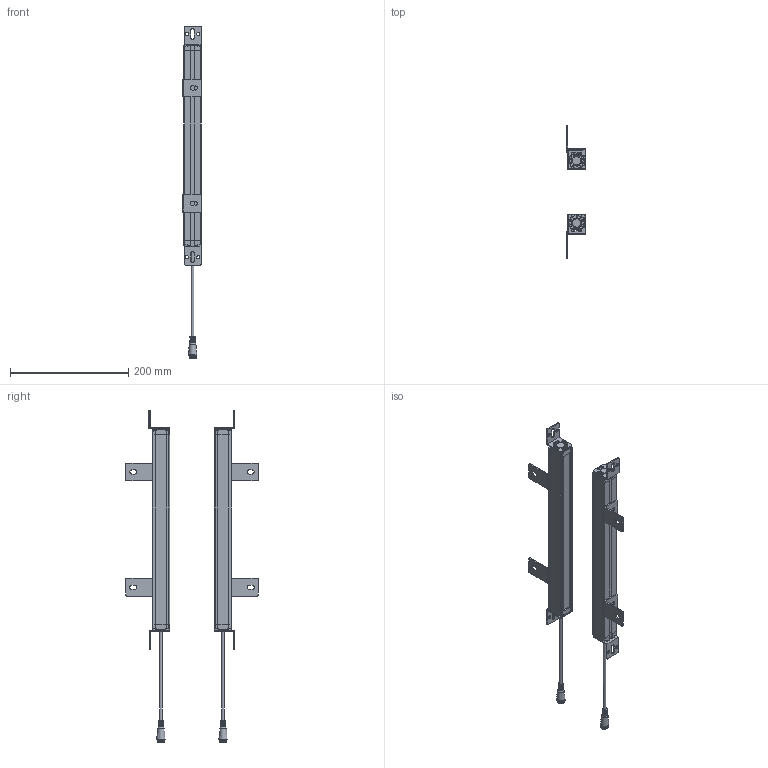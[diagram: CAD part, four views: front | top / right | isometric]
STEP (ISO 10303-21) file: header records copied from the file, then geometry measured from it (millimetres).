
FILE_DESCRIPTION(/* description */ (''),/* implementation_level */ '2;1');
FILE_NAME(/* name */ '0840（29x30）_stp_stp.stp',/* time_stamp */ '2023-04-27T17:31:19+08:00',/* author */ (''),/* organization */ (''),/* preprocessor_version */ 'ST-DEVELOPER v16.7',/* originating_system */ 'SIEMENS PLM Software NX 12.0',/* authorisation */ '');
FILE_SCHEMA (('AUTOMOTIVE_DESIGN { 1 0 10303 214 3 1 1 1 }'));
Products named in the file (1): 0840（29x30）_stp_stp_stp
Bounding box: 32.03 x 223.99 x 561 mm (x, y, z)
Volume: 243924.2 mm3; surface area: 255489.1 mm2
Topology: 34 solids, 34 shells, 1610 faces, 4267 edges, 2771 vertices
Faces by surface type: plane 750, cylinder 648, bspline 88, sphere 36, cone 36, torus 32, extrusion 20
Full cylindrical faces by diameter (mm): 1.533 x6, 4.4 x4, 9 x2, 12.5 x2
Entity records: 56427 total; most frequent: CARTESIAN_POINT 16064, DIRECTION 8330, ORIENTED_EDGE 8324, EDGE_CURVE 4162, AXIS2_PLACEMENT_3D 2918, VERTEX_POINT 2696, VECTOR 2494, LINE 2474
